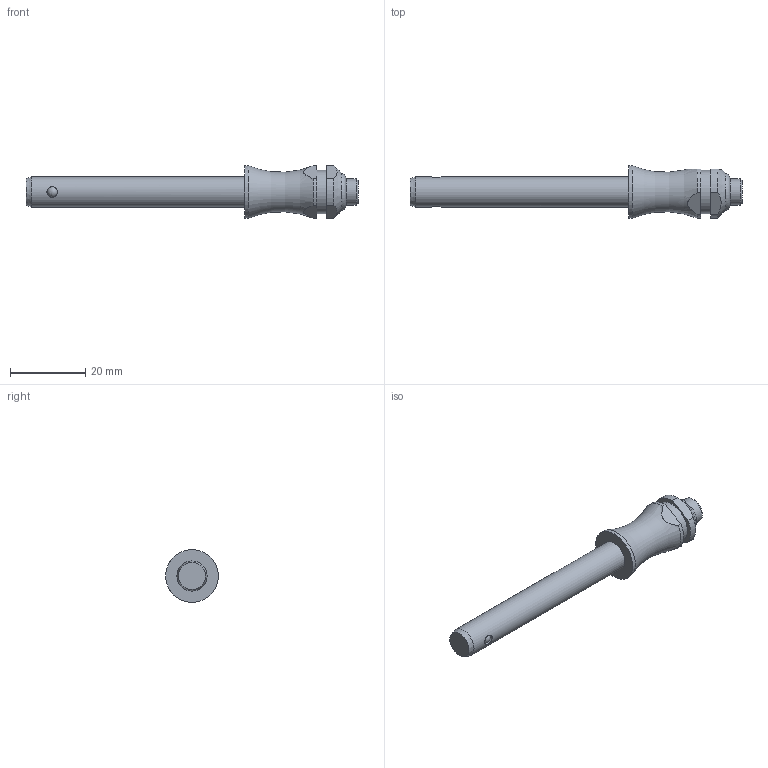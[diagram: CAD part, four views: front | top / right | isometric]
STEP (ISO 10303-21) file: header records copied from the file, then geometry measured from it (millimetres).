
FILE_DESCRIPTION( ( 'STEP AP203' ), '1' );
FILE_NAME( 'C:/Temp/Ganter_Step_05_03_2020/data/3_1/gn113_3/Stainless Steel-Ball lock pin GN 113.3-8-50 (activated).stp', '2020-03-12T08:18:26', ( 'License CC BY-ND 4.0' ), ( 'CADENAS' ), ' ', 'PARTsolutions', ' ' );
FILE_SCHEMA( ( 'CONFIG_CONTROL_DESIGN' ) );
Length unit declared in the file: millimetre
Products named in the file (1): _Stainless Steel-Ball lock pin GN 113.3-8-50 (activated)
Bounding box: 88.35 x 14 x 14 mm (x, y, z)
Volume: 6014.6 mm3; surface area: 2880.3 mm2
Topology: 1 solids, 1 shells, 30 faces, 72 edges, 45 vertices
Faces by surface type: cylinder 12, plane 11, cone 3, torus 2, sphere 2
Full cylindrical faces by diameter (mm): 2.78 x2, 7 x1, 8 x1, 11.6 x1, 14 x1
Entity records: 968 total; most frequent: CARTESIAN_POINT 321, DIRECTION 130, ORIENTED_EDGE 102, AXIS2_PLACEMENT_3D 56, EDGE_CURVE 51, EDGE_LOOP 46, VERTEX_POINT 39, FACE_OUTER_BOUND 38
